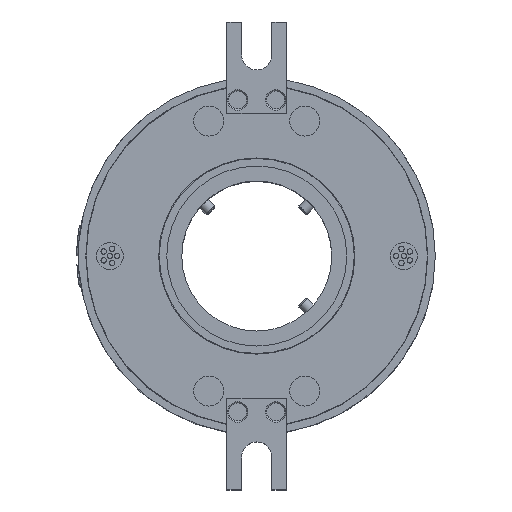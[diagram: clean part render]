
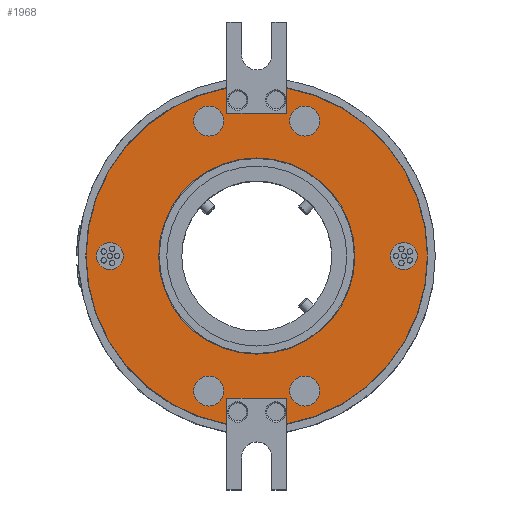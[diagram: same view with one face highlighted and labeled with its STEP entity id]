
A CAD part, top view. The second image highlights one B-rep face of the part: STEP entity #1968.
In plain terms, the highlighted planar face has unit normal (0, 0, 1).
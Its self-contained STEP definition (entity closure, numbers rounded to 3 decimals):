
#200=FACE_BOUND('',#4915,.T.);
#201=FACE_BOUND('',#4916,.T.);
#202=FACE_BOUND('',#4917,.T.);
#203=FACE_BOUND('',#4918,.T.);
#204=FACE_BOUND('',#4919,.T.);
#205=FACE_BOUND('',#4920,.T.);
#206=FACE_BOUND('',#4921,.T.);
#207=FACE_BOUND('',#4922,.T.);
#554=CIRCLE('',#16705,4.5);
#555=CIRCLE('',#16707,5.);
#556=CIRCLE('',#16708,5.);
#557=CIRCLE('',#16709,4.5);
#558=CIRCLE('',#16710,5.);
#559=CIRCLE('',#16711,5.);
#560=CIRCLE('',#16712,32.7);
#561=CIRCLE('',#16713,56.9);
#562=CIRCLE('',#16714,56.9);
#999=PLANE('',#16715);
#1268=LINE('',#30983,#3281);
#1269=LINE('',#30986,#3282);
#1270=LINE('',#30988,#3283);
#1271=LINE('',#30992,#3284);
#1272=LINE('',#30994,#3285);
#1273=LINE('',#30996,#3286);
#1968=ADVANCED_FACE('',(#200,#201,#202,#203,#204,#205,#206,#207),#999,.T.);
#3281=VECTOR('',#18237,1.);
#3282=VECTOR('',#18238,1.);
#3283=VECTOR('',#18239,1.);
#3284=VECTOR('',#18242,1.);
#3285=VECTOR('',#18243,1.);
#3286=VECTOR('',#18244,1.);
#4915=EDGE_LOOP('',(#7588));
#4916=EDGE_LOOP('',(#7589));
#4917=EDGE_LOOP('',(#7590));
#4918=EDGE_LOOP('',(#7591));
#4919=EDGE_LOOP('',(#7592));
#4920=EDGE_LOOP('',(#7593));
#4921=EDGE_LOOP('',(#7594,#7595,#7596,#7597,#7598,#7599,#7600,#7601));
#4922=EDGE_LOOP('',(#7602));
#7588=ORIENTED_EDGE('',*,*,#13392,.T.);
#7589=ORIENTED_EDGE('',*,*,#13393,.T.);
#7590=ORIENTED_EDGE('',*,*,#13394,.T.);
#7591=ORIENTED_EDGE('',*,*,#13395,.T.);
#7592=ORIENTED_EDGE('',*,*,#13396,.T.);
#7593=ORIENTED_EDGE('',*,*,#13397,.F.);
#7594=ORIENTED_EDGE('',*,*,#13398,.F.);
#7595=ORIENTED_EDGE('',*,*,#13399,.F.);
#7596=ORIENTED_EDGE('',*,*,#13400,.F.);
#7597=ORIENTED_EDGE('',*,*,#13401,.F.);
#7598=ORIENTED_EDGE('',*,*,#13402,.F.);
#7599=ORIENTED_EDGE('',*,*,#13403,.F.);
#7600=ORIENTED_EDGE('',*,*,#13404,.F.);
#7601=ORIENTED_EDGE('',*,*,#13405,.F.);
#7602=ORIENTED_EDGE('',*,*,#13391,.T.);
#11266=VERTEX_POINT('',#30969);
#11267=VERTEX_POINT('',#30972);
#11268=VERTEX_POINT('',#30974);
#11269=VERTEX_POINT('',#30976);
#11270=VERTEX_POINT('',#30978);
#11271=VERTEX_POINT('',#30980);
#11272=VERTEX_POINT('',#30982);
#11273=VERTEX_POINT('',#30984);
#11274=VERTEX_POINT('',#30985);
#11275=VERTEX_POINT('',#30987);
#11276=VERTEX_POINT('',#30989);
#11277=VERTEX_POINT('',#30991);
#11278=VERTEX_POINT('',#30993);
#11279=VERTEX_POINT('',#30995);
#11280=VERTEX_POINT('',#30997);
#13391=EDGE_CURVE('',#11266,#11266,#554,.T.);
#13392=EDGE_CURVE('',#11267,#11267,#555,.T.);
#13393=EDGE_CURVE('',#11268,#11268,#556,.T.);
#13394=EDGE_CURVE('',#11269,#11269,#557,.T.);
#13395=EDGE_CURVE('',#11270,#11270,#558,.T.);
#13396=EDGE_CURVE('',#11271,#11271,#559,.T.);
#13397=EDGE_CURVE('',#11272,#11272,#560,.T.);
#13398=EDGE_CURVE('',#11273,#11274,#1268,.T.);
#13399=EDGE_CURVE('',#11275,#11273,#1269,.T.);
#13400=EDGE_CURVE('',#11276,#11275,#1270,.T.);
#13401=EDGE_CURVE('',#11277,#11276,#561,.T.);
#13402=EDGE_CURVE('',#11278,#11277,#1271,.T.);
#13403=EDGE_CURVE('',#11279,#11278,#1272,.T.);
#13404=EDGE_CURVE('',#11280,#11279,#1273,.T.);
#13405=EDGE_CURVE('',#11274,#11280,#562,.T.);
#16705=AXIS2_PLACEMENT_3D('',#30968,#18221,#18222);
#16707=AXIS2_PLACEMENT_3D('',#30971,#18225,#18226);
#16708=AXIS2_PLACEMENT_3D('',#30973,#18227,#18228);
#16709=AXIS2_PLACEMENT_3D('',#30975,#18229,#18230);
#16710=AXIS2_PLACEMENT_3D('',#30977,#18231,#18232);
#16711=AXIS2_PLACEMENT_3D('',#30979,#18233,#18234);
#16712=AXIS2_PLACEMENT_3D('',#30981,#18235,#18236);
#16713=AXIS2_PLACEMENT_3D('',#30990,#18240,#18241);
#16714=AXIS2_PLACEMENT_3D('',#30998,#18245,#18246);
#16715=AXIS2_PLACEMENT_3D('',#30999,#18247,#18248);
#18221=DIRECTION('',(0.,0.,-1.));
#18222=DIRECTION('',(-1.,0.,0.));
#18225=DIRECTION('',(0.,0.,-1.));
#18226=DIRECTION('',(-1.,0.,0.));
#18227=DIRECTION('',(0.,0.,-1.));
#18228=DIRECTION('',(-1.,0.,0.));
#18229=DIRECTION('',(0.,0.,-1.));
#18230=DIRECTION('',(1.,0.,0.));
#18231=DIRECTION('',(0.,0.,-1.));
#18232=DIRECTION('',(1.,0.,0.));
#18233=DIRECTION('',(0.,0.,-1.));
#18234=DIRECTION('',(1.,0.,0.));
#18235=DIRECTION('',(0.,0.,1.));
#18236=DIRECTION('',(1.,0.,0.));
#18237=DIRECTION('',(0.,-1.,0.));
#18238=DIRECTION('',(-1.,0.,0.));
#18239=DIRECTION('',(0.,1.,0.));
#18240=DIRECTION('',(0.,0.,-1.));
#18241=DIRECTION('',(1.,0.,0.));
#18242=DIRECTION('',(0.,1.,0.));
#18243=DIRECTION('',(1.,0.,0.));
#18244=DIRECTION('',(0.,-1.,0.));
#18245=DIRECTION('',(0.,0.,-1.));
#18246=DIRECTION('',(1.,0.,0.));
#18247=DIRECTION('',(0.,0.,1.));
#18248=DIRECTION('',(1.,0.,0.));
#30968=CARTESIAN_POINT('',(49.,0.,85.7));
#30969=CARTESIAN_POINT('',(44.5,0.,85.7));
#30971=CARTESIAN_POINT('',(-16.,45.,85.7));
#30972=CARTESIAN_POINT('',(-21.,45.,85.7));
#30973=CARTESIAN_POINT('',(16.,45.,85.7));
#30974=CARTESIAN_POINT('',(11.,45.,85.7));
#30975=CARTESIAN_POINT('',(-49.,0.,85.7));
#30976=CARTESIAN_POINT('',(-44.5,0.,85.7));
#30977=CARTESIAN_POINT('',(-16.,-45.,85.7));
#30978=CARTESIAN_POINT('',(-11.,-45.,85.7));
#30979=CARTESIAN_POINT('',(16.,-45.,85.7));
#30980=CARTESIAN_POINT('',(21.,-45.,85.7));
#30981=CARTESIAN_POINT('',(0.,0.,85.7));
#30982=CARTESIAN_POINT('',(32.7,0.,85.7));
#30983=CARTESIAN_POINT('',(-10.,-62.75,85.7));
#30984=CARTESIAN_POINT('',(-10.,-47.5,85.7));
#30985=CARTESIAN_POINT('',(-10.,-56.014,85.7));
#30986=CARTESIAN_POINT('',(0.,-47.5,85.7));
#30987=CARTESIAN_POINT('',(10.,-47.5,85.7));
#30988=CARTESIAN_POINT('',(10.,-62.75,85.7));
#30989=CARTESIAN_POINT('',(10.,-56.014,85.7));
#30990=CARTESIAN_POINT('',(0.,0.,85.7));
#30991=CARTESIAN_POINT('',(10.,56.014,85.7));
#30992=CARTESIAN_POINT('',(10.,62.75,85.7));
#30993=CARTESIAN_POINT('',(10.,47.5,85.7));
#30994=CARTESIAN_POINT('',(0.,47.5,85.7));
#30995=CARTESIAN_POINT('',(-10.,47.5,85.7));
#30996=CARTESIAN_POINT('',(-10.,62.75,85.7));
#30997=CARTESIAN_POINT('',(-10.,56.014,85.7));
#30998=CARTESIAN_POINT('',(0.,0.,85.7));
#30999=CARTESIAN_POINT('',(0.,0.,85.7));
